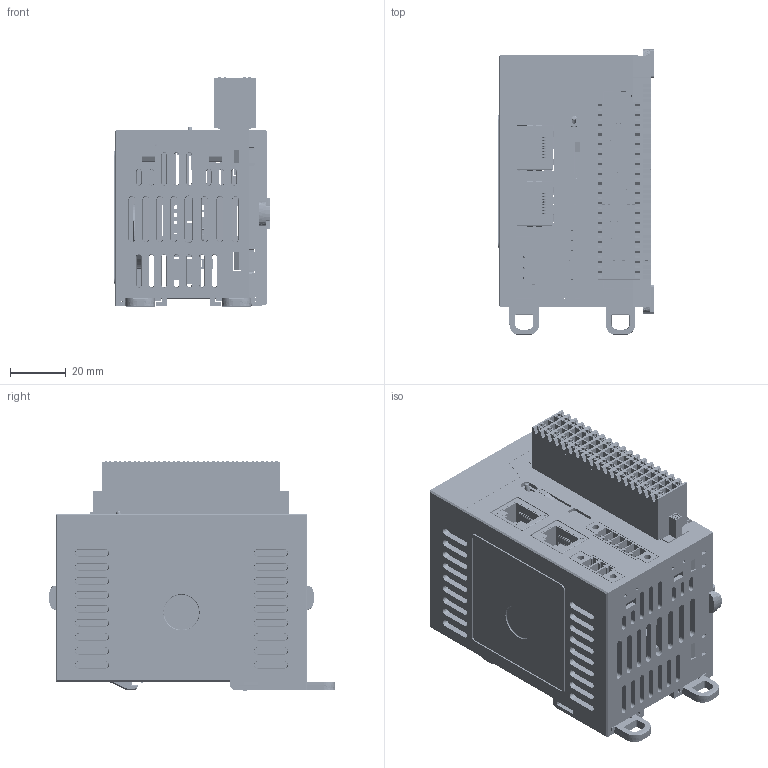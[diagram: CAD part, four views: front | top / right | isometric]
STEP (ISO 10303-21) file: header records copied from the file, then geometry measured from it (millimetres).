
FILE_DESCRIPTION (( 'STEP AP203' ), '1' );
FILE_NAME ('00. CM3-SP32PDTF.STEP', '2025-02-06T08:23:34', ( '' ), ( '' ), 'SwSTEP 2.0', 'SolidWorks 2024', '' );
FILE_SCHEMA (( 'CONFIG_CONTROL_DESIGN' ));
Length unit declared in the file: millimetre
Products named in the file (30): CR2032_CASE; Connector__3.5_6P_Anytek_BCP22192; mSD; 00. CM3-SP32PDTF; Upper case_BCP24456,BCP24457_A_CM3-SP32PDT(C)F; CM3_Exp Hook_BCP09270_A_A; 20037WR-07; CR2032_PART; Connector_BCP22124; 15EDGRC-3.5-09P-14-00A(H); Connector-3.5_36P; Header socket_BCP22056_20x2; Connector_BCP24190_A_small; CM3_Hook_BCP09271_A_A; CPU PCB_품번미정_Z2_32점; Heat Sink_(20,20,10); Connector_USB-C_U52A-011B-161082; Heat Sink_H10mm; Connector_BCP24190_A; Connector-3.5_36P_연결; IO PCB_품번미정_Z2_32점; LEFT CASE_BCP24455_A(최종); SW_BCT22082_SK12D02V6_A; CTS-2245; Right Case_BCP24458, BCP24459_A_BCP24459_CM3-SP32PDTF, CM3-SP32PDCF; POWER PCB_품번미정_Z2; SW_BCP22232_Up; RB1-125BAK1A; 디버그 Connector; Window_BCP24460, BCP24461, BCP24462_A_CM-32PDTF
Assembly tree (38 placements, depth 2):
  00. CM3-SP32PDTF
    Right Case_BCP24458, BCP24459_A_BCP24459_CM3-SP32PDTF, CM3-SP32PDCF
    Upper case_BCP24456,BCP24457_A_CM3-SP32PDT(C)F
    Window_BCP24460, BCP24461, BCP24462_A_CM-32PDTF
    IO PCB_품번미정_Z2_32점
    CPU PCB_품번미정_Z2_32점
    POWER PCB_품번미정_Z2
    Connector-3.5_36P
    Connector-3.5_36P_연결
    Connector_BCP24190_A  x3
    CM3_Exp Hook_BCP09270_A_A  x2
    CM3_Hook_BCP09271_A_A  x2
    Connector_BCP22124
    Connector__3.5_6P_Anytek_BCP22192
    SW_BCT22082_SK12D02V6_A
    Connector_USB-C_U52A-011B-161082
    SW_BCP22232_Up
    RB1-125BAK1A  x2
    Heat Sink_H10mm
    Header socket_BCP22056_20x2  x2
    CR2032_CASE  x2
    mSD
    CTS-2245
    Connector_BCP24190_A_small  x2
    디버그 Connector
    20037WR-07
    Heat Sink_(20,20,10)
    LEFT CASE_BCP24455_A(최종)
    CR2032_PART
    15EDGRC-3.5-09P-14-00A(H)  x2
Bounding box: 56 x 102.46 x 82.05 mm (x, y, z)
Volume: 111109.3 mm3; surface area: 141415.6 mm2
Topology: 77 solids, 77 shells, 13033 faces, 34279 edges, 21989 vertices
Faces by surface type: plane 10851, cylinder 1042, bspline 695, cone 351, torus 68, sphere 26
Entity records: 325638 total; most frequent: CARTESIAN_POINT 80197, ORIENTED_EDGE 52166, DIRECTION 45644, EDGE_CURVE 26083, LINE 22492, VECTOR 22492, VERTEX_POINT 16833, AXIS2_PLACEMENT_3D 11576
